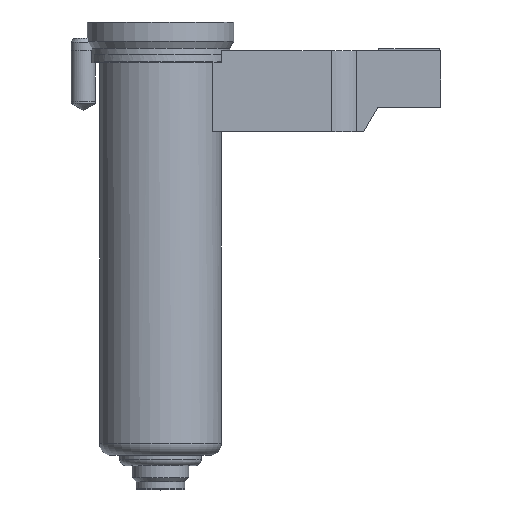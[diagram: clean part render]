
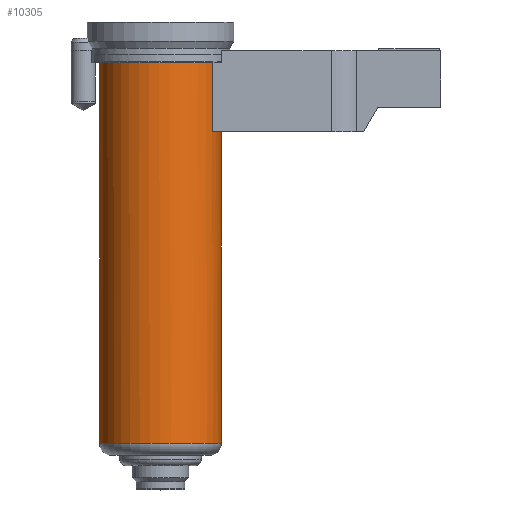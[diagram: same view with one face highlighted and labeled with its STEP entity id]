
A CAD part, top view. The second image highlights one B-rep face of the part: STEP entity #10305.
In plain terms, the highlighted cylindrical face has radius 15 mm (diameter 30 mm), a partial arc.
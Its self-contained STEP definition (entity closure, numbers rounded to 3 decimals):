
#9438=CARTESIAN_POINT('',(0.,-10.,0.));
#9439=DIRECTION('',(0.,-1.,0.));
#9440=DIRECTION('',(0.846,0.,0.533));
#9441=AXIS2_PLACEMENT_3D('',#9438,#9439,#9440);
#9623=DIRECTION('',(0.,1.,0.));
#9624=VECTOR('',#9623,93.595);
#9625=CARTESIAN_POINT('',(-15.,-103.595,0.));
#9626=LINE('',#9625,#9624);
#9632=DIRECTION('',(0.,1.,0.));
#9633=VECTOR('',#9632,76.595);
#9634=CARTESIAN_POINT('',(15.,-103.595,0.));
#9635=LINE('',#9634,#9633);
#9636=CARTESIAN_POINT('',(0.,-27.,0.));
#9637=DIRECTION('',(0.,-1.,0.));
#9638=DIRECTION('',(1.,0.,0.));
#9639=AXIS2_PLACEMENT_3D('',#9636,#9637,#9638);
#9641=CARTESIAN_POINT('',(0.,-103.595,0.));
#9642=DIRECTION('',(0.,-1.,0.));
#9643=DIRECTION('',(1.,0.,0.));
#9644=AXIS2_PLACEMENT_3D('',#9641,#9642,#9643);
#9646=DIRECTION('',(0.,-1.,0.));
#9647=VECTOR('',#9646,17.);
#9648=CARTESIAN_POINT('',(12.689,-10.,8.));
#9649=LINE('',#9648,#9647);
#9783=CARTESIAN_POINT('',(15.,-103.595,0.));
#9785=VERTEX_POINT('',#9783);
#9793=CARTESIAN_POINT('',(-15.,-103.595,0.));
#9795=VERTEX_POINT('',#9793);
#9796=CARTESIAN_POINT('',(-15.,-10.,0.));
#9797=VERTEX_POINT('',#9796);
#9836=CARTESIAN_POINT('',(15.,-27.,0.));
#9837=CARTESIAN_POINT('',(12.689,-27.,8.));
#9838=VERTEX_POINT('',#9836);
#9839=VERTEX_POINT('',#9837);
#9840=CARTESIAN_POINT('',(12.689,-10.,8.));
#9841=VERTEX_POINT('',#9840);
#10290=CARTESIAN_POINT('',(0.,5.755,0.));
#10291=DIRECTION('',(0.,-1.,0.));
#10292=DIRECTION('',(-1.,0.,0.));
#10293=AXIS2_PLACEMENT_3D('',#10290,#10291,#10292);
#10294=CYLINDRICAL_SURFACE('',#10293,15.);
#10295=ORIENTED_EDGE('',*,*,#10193,.F.);
#10296=ORIENTED_EDGE('',*,*,#10285,.F.);
#10298=ORIENTED_EDGE('',*,*,#10297,.T.);
#10299=ORIENTED_EDGE('',*,*,#10281,.T.);
#10300=ORIENTED_EDGE('',*,*,#10026,.F.);
#10302=ORIENTED_EDGE('',*,*,#10301,.T.);
#10303=EDGE_LOOP('',(#10295,#10296,#10298,#10299,#10300,#10302));
#10304=FACE_OUTER_BOUND('',#10303,.F.);
#10305=ADVANCED_FACE('',(#10304),#10294,.T.);
#9442=CIRCLE('',#9441,15.);
#9640=CIRCLE('',#9639,15.);
#9645=CIRCLE('',#9644,15.);
#10026=EDGE_CURVE('',#9841,#9797,#9442,.T.);
#10193=EDGE_CURVE('',#9838,#9839,#9640,.T.);
#10281=EDGE_CURVE('',#9795,#9797,#9626,.T.);
#10285=EDGE_CURVE('',#9785,#9838,#9635,.T.);
#10297=EDGE_CURVE('',#9785,#9795,#9645,.T.);
#10301=EDGE_CURVE('',#9841,#9839,#9649,.T.);
